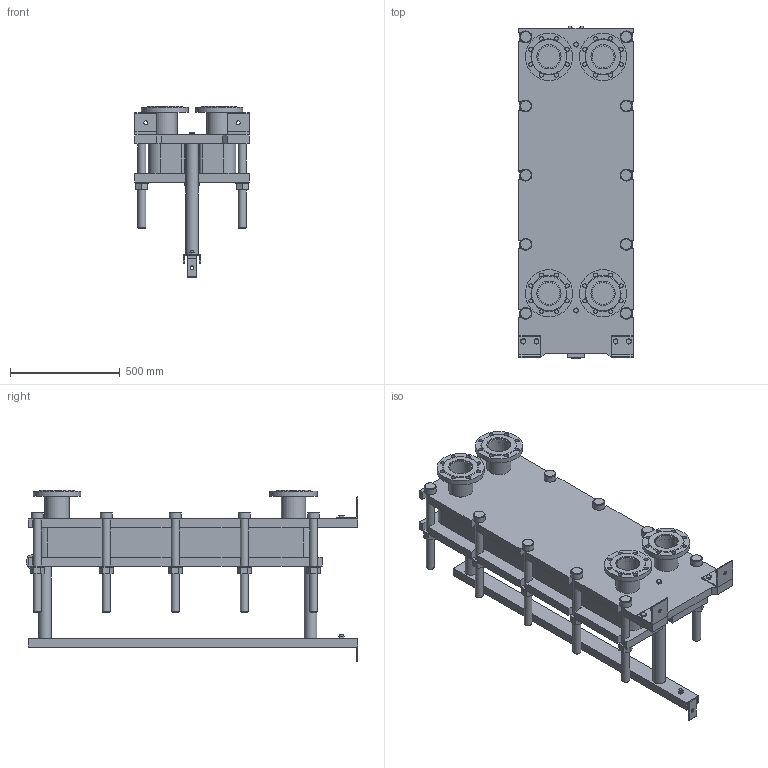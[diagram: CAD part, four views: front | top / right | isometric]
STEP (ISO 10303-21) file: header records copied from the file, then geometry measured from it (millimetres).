
FILE_DESCRIPTION(/* description */ (''),/* implementation_level */ '2;1');
FILE_NAME(/* name */ 'C:\Users\zhuro\Desktop\ENCO\TO\ЭН-04\ЭН-0,5-04-39-1.stp',/* time_stamp */ '2022-06-06T10:47:22+03:00',/* author */ ('zhuro'),/* organization */ (''),/* preprocessor_version */ 'ST-DEVELOPER v18.1',/* originating_system */ 'Autodesk Inventor 2022',/* authorisation */ '');
FILE_SCHEMA (('AUTOMOTIVE_DESIGN { 1 0 10303 214 3 1 1 }'));
Length unit declared in the file: millimetre
Products named in the file (1): ЭН-0,5-04-39-1
Bounding box: 520 x 1510 x 779.5 mm (x, y, z)
Volume: 135164300.6 mm3; surface area: 7013866.2 mm2
Topology: 45 solids, 45 shells, 668 faces, 1611 edges, 1048 vertices
Faces by surface type: plane 457, cylinder 166, cone 39, torus 6
Full cylindrical faces by diameter (mm): 8 x4, 10 x2, 16 x8, 18 x35, 36 x25, 40 x2, 42 x1, 45 x4, 54 x10, 57 x2, 60 x10, 68 x2, 100 x4, 110 x8, 215 x4
Entity records: 23607 total; most frequent: CARTESIAN_POINT 7348, DIRECTION 3371, ORIENTED_EDGE 3142, EDGE_CURVE 1571, AXIS2_PLACEMENT_3D 1199, VERTEX_POINT 1044, LINE 973, VECTOR 973
